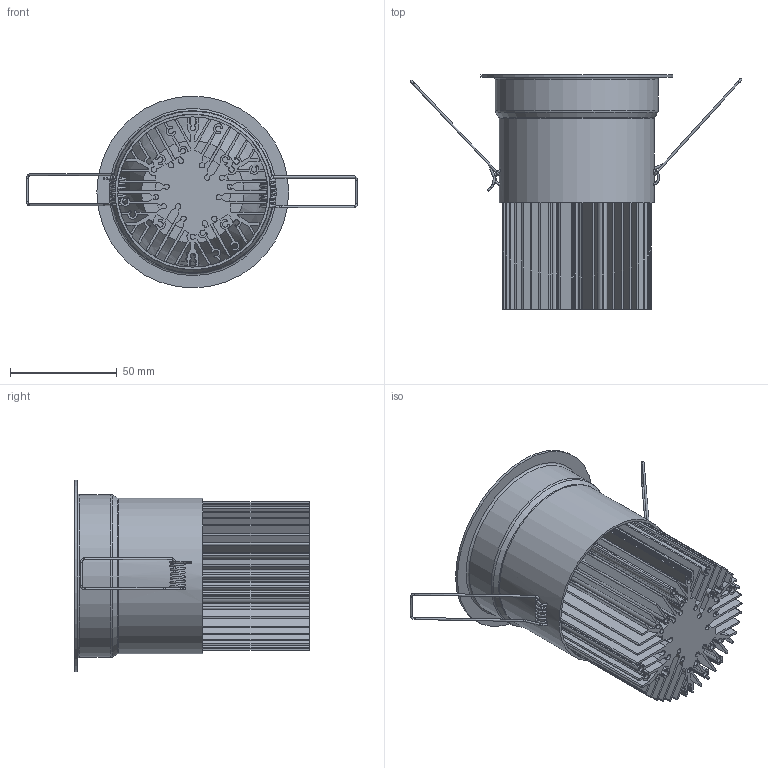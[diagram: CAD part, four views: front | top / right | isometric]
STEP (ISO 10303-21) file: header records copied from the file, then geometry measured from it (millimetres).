
FILE_DESCRIPTION(/* description */ (''),/* implementation_level */ '2;1');
FILE_NAME(/* name */ 'ZETA_MAXI_ZMX4.stp',/* time_stamp */ '2025-09-29T09:36:24+02:00',/* author */ ('gian.noche'),/* organization */ (''),/* preprocessor_version */ 'ST-DEVELOPER v19.2',/* originating_system */ 'Autodesk Inventor 2023',/* authorisation */ '');
FILE_SCHEMA (('AUTOMOTIVE_DESIGN { 1 0 10303 214 3 1 1 }'));
Length unit declared in the file: millimetre
Products named in the file (1): ZETA-MAXI_Semplifica_1
Bounding box: 155.48 x 110 x 90 mm (x, y, z)
Volume: 132896.9 mm3; surface area: 140931.6 mm2
Topology: 1 solids, 1 shells, 1431 faces, 3530 edges, 2109 vertices
Faces by surface type: plane 1063, cylinder 284, bspline 68, torus 10, cone 6
Full cylindrical faces by diameter (mm): 1 x4, 35.3 x2, 48 x1, 70.5 x1, 72.9 x1, 74 x2, 76.4 x1, 90 x1
Entity records: 51544 total; most frequent: CARTESIAN_POINT 17941, ORIENTED_EDGE 7060, DIRECTION 6783, EDGE_CURVE 3530, LINE 2643, VECTOR 2643, VERTEX_POINT 2109, AXIS2_PLACEMENT_3D 2070
